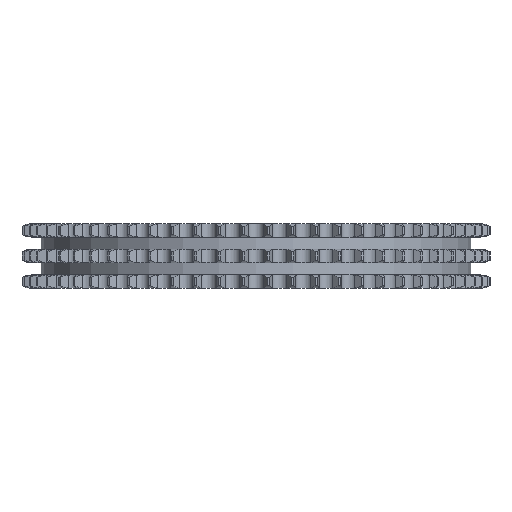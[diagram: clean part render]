
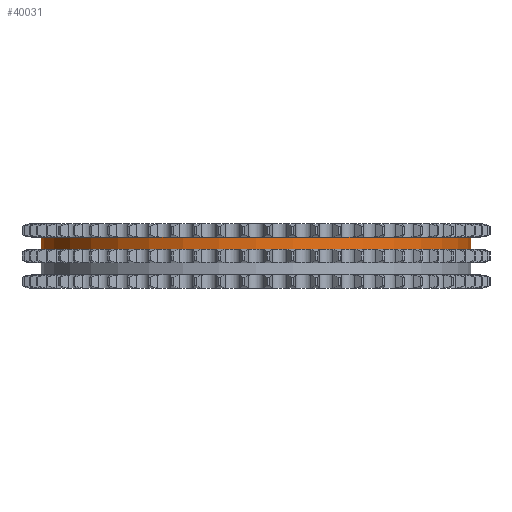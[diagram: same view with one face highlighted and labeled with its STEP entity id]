
A CAD part, left-side view. The second image highlights one B-rep face of the part: STEP entity #40031.
In plain terms, the highlighted cylindrical face has radius 84.999 mm (diameter 169.997 mm), a partial arc.
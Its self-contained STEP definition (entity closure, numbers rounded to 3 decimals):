
#7445=DIRECTION('',(0.,0.,-1.));
#7446=VECTOR('',#7445,4.85);
#7447=CARTESIAN_POINT('',(0.,84.999,7.5));
#7448=LINE('',#7447,#7446);
#7452=CARTESIAN_POINT('',(0.,0.,7.5));
#7453=DIRECTION('',(0.,0.,1.));
#7454=DIRECTION('',(0.,1.,0.));
#7455=AXIS2_PLACEMENT_3D('',#7452,#7453,#7454);
#7460=DIRECTION('',(0.,0.,-1.));
#7461=VECTOR('',#7460,4.85);
#7462=CARTESIAN_POINT('',(0.,-84.999,7.5));
#7463=LINE('',#7462,#7461);
#7467=CARTESIAN_POINT('',(0.,0.,2.65));
#7468=DIRECTION('',(0.,0.,1.));
#7469=DIRECTION('',(0.,1.,0.));
#7470=AXIS2_PLACEMENT_3D('',#7467,#7468,#7469);
#32308=CARTESIAN_POINT('',(0.,84.999,7.5));
#32309=CARTESIAN_POINT('',(0.,84.999,2.65));
#32310=VERTEX_POINT('',#32308);
#32311=VERTEX_POINT('',#32309);
#32312=CARTESIAN_POINT('',(0.,-84.999,7.5));
#32313=CARTESIAN_POINT('',(0.,-84.999,2.65));
#32314=VERTEX_POINT('',#32312);
#32315=VERTEX_POINT('',#32313);
#40019=CARTESIAN_POINT('',(0.,0.,8.25));
#40020=DIRECTION('',(0.,0.,-1.));
#40021=DIRECTION('',(0.,-1.,0.));
#40022=AXIS2_PLACEMENT_3D('',#40019,#40020,#40021);
#40023=CYLINDRICAL_SURFACE('',#40022,84.999);
#40024=ORIENTED_EDGE('',*,*,#40009,.F.);
#40025=ORIENTED_EDGE('',*,*,#39999,.T.);
#40026=ORIENTED_EDGE('',*,*,#40013,.T.);
#40028=ORIENTED_EDGE('',*,*,#40027,.F.);
#40029=EDGE_LOOP('',(#40024,#40025,#40026,#40028));
#40030=FACE_OUTER_BOUND('',#40029,.F.);
#40031=ADVANCED_FACE('',(#40030),#40023,.T.);
#7456=CIRCLE('',#7455,84.999);
#7471=CIRCLE('',#7470,84.999);
#39999=EDGE_CURVE('',#32310,#32314,#7456,.T.);
#40009=EDGE_CURVE('',#32310,#32311,#7448,.T.);
#40013=EDGE_CURVE('',#32314,#32315,#7463,.T.);
#40027=EDGE_CURVE('',#32311,#32315,#7471,.T.);
